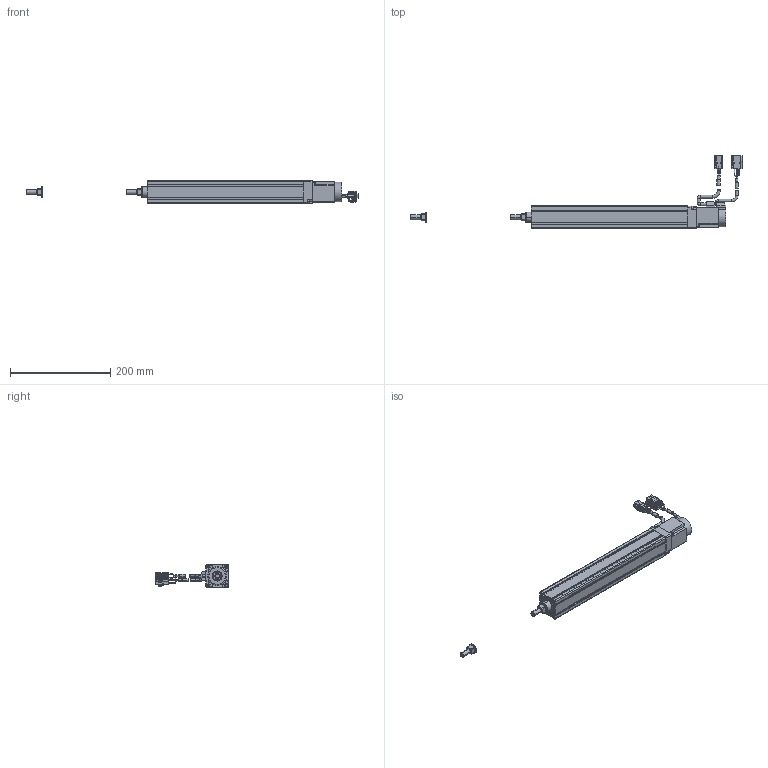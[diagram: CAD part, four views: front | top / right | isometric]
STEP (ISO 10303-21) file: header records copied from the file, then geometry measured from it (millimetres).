
FILE_DESCRIPTION((''),'2;1');
FILE_NAME('BET4D-ST-C_N-20_IGS_PRT','2017-06-18T',(' '),(''),'PRO/ENGINEER BY PARAMETRIC TECHNOLOGY CORPORATION, 2015030','PRO/ENGINEER BY PARAMETRIC TECHNOLOGY CORPORATION, 2015030','');
FILE_SCHEMA(('CONFIG_CONTROL_DESIGN'));
Length unit declared in the file: millimetre
Products named in the file (1): BET4D-ST-C_N-20_IGS_PRT
Bounding box: 663.4 x 145.7 x 45 mm (x, y, z)
Volume: 573015.9 mm3; surface area: 191328.4 mm2
Topology: 5 solids, 29 shells, 845 faces, 2184 edges, 1408 vertices
Faces by surface type: plane 533, cylinder 226, torus 64, cone 18, sphere 4
Entity records: 25921 total; most frequent: CARTESIAN_POINT 4793, DIRECTION 4414, ORIENTED_EDGE 4304, EDGE_CURVE 2180, VECTOR 1532, LINE 1532, AXIS2_PLACEMENT_3D 1441, VERTEX_POINT 1408
